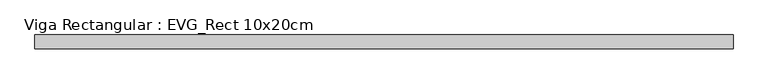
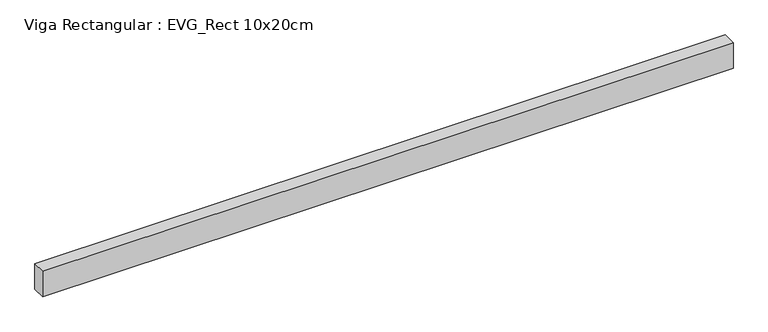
"""IFC4 building model written with IfcOpenShell, lengths in millimetres: beam geometry, Viga Rectangular : EVG_Rect 10x20cm."""

from ifc_helpers import new_model, si_unit, frame, origin, place, context, project, spatial, polyline, outline, extrude, source, transform, mapped, element, save


def viga_rectangular_evg_rect_10x20cm_33a10ffb(model_context):
    return source(origin(), model_context, "Body", "SweptSolid", [
        extrude(outline(polyline([(2550.0, 50.0), (2550.0, -50.0), (-2550.0, -50.0), (-2550.0, 50.0), (2550.0, 50.0)])), frame((0.0, 0.0, -200.0), z_axis=(0.0, 0.0, 1.0), x_axis=(1.0, 0.0, 0.0)), (0.0, 0.0, 1.0), 200.0),
    ])


if __name__ == "__main__":
    model = new_model("IFC4")
    model_context = context("Model", 3, world=origin())
    ifc_project = project(units=[si_unit("LENGTHUNIT", "METRE", prefix="MILLI")], contexts=[model_context])
    site = spatial("IfcSite", under=ifc_project)
    building = spatial("IfcBuilding", under=site)
    placement = place(None, origin())
    viga_rectangular_evg_rect_10x20cm_shape = viga_rectangular_evg_rect_10x20cm_33a10ffb(model_context)
    element("IfcBeam", 1, ObjectType="Viga Rectangular : EVG_Rect 10x20cm", at=placement, inside=building, context=model_context, shape_type="MappedRepresentation", body=[
        mapped(viga_rectangular_evg_rect_10x20cm_shape, transform((0.0, 0.0, 0.0), x_axis=(1.0, 0.0, 0.0), y_axis=(0.0, 1.0, 0.0), z_axis=(0.0, 0.0, 1.0))),
    ])
    save(model, "model.ifc")
